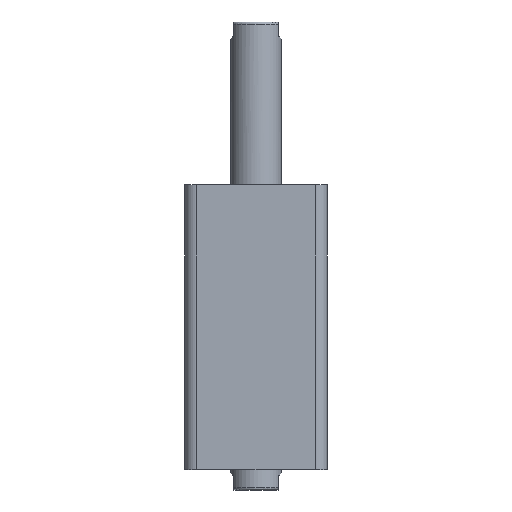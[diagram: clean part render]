
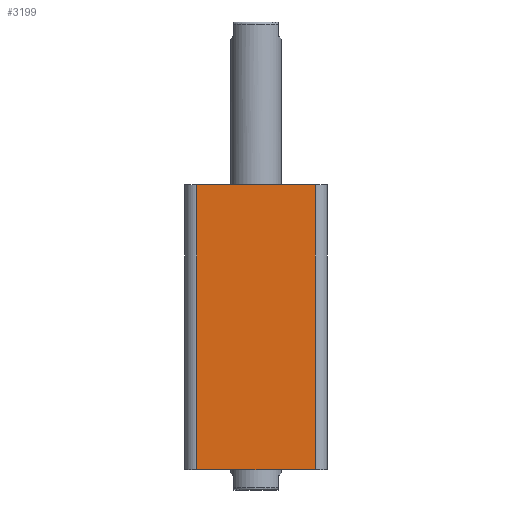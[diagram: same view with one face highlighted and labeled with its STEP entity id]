
A CAD part, front view. The second image highlights one B-rep face of the part: STEP entity #3199.
In plain terms, the highlighted planar face has unit normal (0, -1, 0).
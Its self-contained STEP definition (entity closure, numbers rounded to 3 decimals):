
#309 = CARTESIAN_POINT ( 'NONE',  ( -35., -35., 140. ) ) ;
#311 = PLANE ( 'NONE',  #1301 ) ;
#313 = DIRECTION ( 'NONE',  ( 0., 1., 0. ) ) ;
#314 = DIRECTION ( 'NONE',  ( 0., 0., 1. ) ) ;
#705 = CARTESIAN_POINT ( 'NONE',  ( 29., -35., 140. ) ) ;
#709 = CARTESIAN_POINT ( 'NONE',  ( -29., -35., 140. ) ) ;
#770 = VERTEX_POINT ( 'NONE', #705 ) ;
#779 = VERTEX_POINT ( 'NONE', #709 ) ;
#904 = LINE ( 'NONE', #2457, #917 ) ;
#910 = LINE ( 'NONE', #2467, #913 ) ;
#912 = LINE ( 'NONE', #2469, #915 ) ;
#913 = VECTOR ( 'NONE', #2468, 1000. ) ;
#915 = VECTOR ( 'NONE', #2470, 1000. ) ;
#916 = LINE ( 'NONE', #2472, #919 ) ;
#917 = VECTOR ( 'NONE', #2471, 1000. ) ;
#919 = VECTOR ( 'NONE', #2473, 1000. ) ;
#1070 = FACE_OUTER_BOUND ( 'NONE', #2098, .T. ) ;
#1301 = AXIS2_PLACEMENT_3D ( 'NONE', #309, #313, #314 ) ;
#1895 = EDGE_CURVE ( 'NONE', #779, #770, #910, .T. ) ;
#1896 = EDGE_CURVE ( 'NONE', #779, #3033, #912, .T. ) ;
#1897 = EDGE_CURVE ( 'NONE', #3033, #3031, #904, .T. ) ;
#1898 = EDGE_CURVE ( 'NONE', #3031, #770, #916, .T. ) ;
#2098 = EDGE_LOOP ( 'NONE', ( #3130, #3118, #3121, #3107 ) ) ;
#2457 = CARTESIAN_POINT ( 'NONE',  ( -35., -35., 0. ) ) ;
#2467 = CARTESIAN_POINT ( 'NONE',  ( -35., -35., 140. ) ) ;
#2468 = DIRECTION ( 'NONE',  ( 1., 0., 0. ) ) ;
#2469 = CARTESIAN_POINT ( 'NONE',  ( -29., -35., 140. ) ) ;
#2470 = DIRECTION ( 'NONE',  ( 0., 0., -1. ) ) ;
#2471 = DIRECTION ( 'NONE',  ( 1., 0., 0. ) ) ;
#2472 = CARTESIAN_POINT ( 'NONE',  ( 29., -35., 140. ) ) ;
#2473 = DIRECTION ( 'NONE',  ( 0., 0., 1. ) ) ;
#2645 = CARTESIAN_POINT ( 'NONE',  ( -29., -35., 0. ) ) ;
#2647 = CARTESIAN_POINT ( 'NONE',  ( 29., -35., 0. ) ) ;
#3031 = VERTEX_POINT ( 'NONE', #2647 ) ;
#3033 = VERTEX_POINT ( 'NONE', #2645 ) ;
#3107 = ORIENTED_EDGE ( 'NONE', *, *, #1898, .T. ) ;
#3118 = ORIENTED_EDGE ( 'NONE', *, *, #1896, .T. ) ;
#3121 = ORIENTED_EDGE ( 'NONE', *, *, #1897, .T. ) ;
#3130 = ORIENTED_EDGE ( 'NONE', *, *, #1895, .F. ) ;
#3199 = ADVANCED_FACE ( 'NONE', ( #1070 ), #311, .F. ) ;
